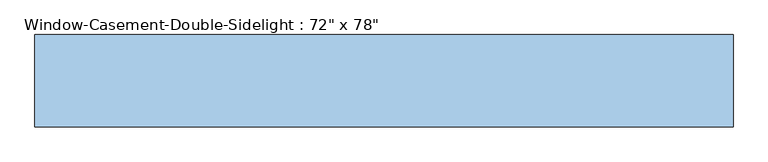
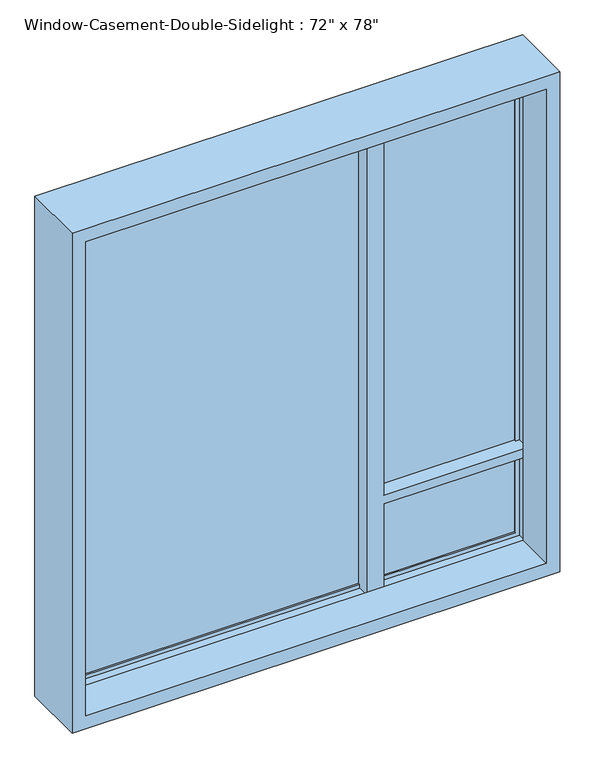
"""IFC4 building model written with IfcOpenShell, lengths in millimetres: window geometry."""

from ifc_helpers import new_model, si_unit, frame, origin, place, context, project, spatial, polyline, outline, extrude, faceted_brep, source, transform, mapped, element, save


def window_0ea17b29(model_context):
    return source(origin(), model_context, "Body", "SolidModel", [
        faceted_brep([(-863.6, 79.375, 2844.8), (-863.6, 120.65, 2844.8), (863.6, 120.65, 2844.8), (863.6, 79.375, 2844.8), (340.3203125, 79.375, 2844.8), (330.2, 79.375, 2844.8), (330.2, 117.475, 2844.8), (279.4, 117.475, 2844.8), (279.4, 79.375, 2844.8), (-878.8796875, 28.575, 2860.0796875), (-878.8796875, 79.375, 2860.0796875), (878.8796875, 79.375, 2860.0796875), (878.8796875, 28.575, 2860.0796875), (-863.6, -120.65, 2844.8), (-863.6, 28.575, 2844.8), (279.4, 28.575, 2844.8), (340.3203125, 28.575, 2844.8), (863.6, 28.575, 2844.8), (863.6, -120.65, 2844.8), (-914.4, 120.65, 2895.6), (-914.4, -120.65, 2895.6), (914.4, -120.65, 2895.6), (914.4, 120.65, 2895.6), (863.6, 120.65, 965.2), (863.6, 79.375, 965.2), (863.6, 79.375, 1292.8798438), (863.6, 117.475, 1292.8798438), (863.6, 117.475, 1328.4001563), (863.6, 79.375, 1328.4001563), (878.8796875, 79.375, 1328.4001563), (878.8796875, 28.575, 1328.4001563), (878.8796875, 79.375, 949.9203125), (878.8796875, 28.575, 949.9203125), (878.8796875, 28.575, 1292.8798438), (878.8796875, 79.375, 1292.8798438), (863.6, 28.575, 1328.4001563), (863.6, 28.575, 1292.8798438), (863.6, 28.575, 965.2), (863.6, -120.65, 965.2), (914.4, -120.65, 914.4), (914.4, 120.65, 914.4), (-863.6, 120.65, 965.2), (-863.6, 79.375, 965.2), (279.4, 79.375, 965.2), (279.4, 117.475, 965.2), (330.2, 117.475, 965.2), (330.2, 79.375, 965.2), (340.3203125, 79.375, 965.2), (340.3203125, 79.375, 949.9203125), (340.3203125, 28.575, 949.9203125), (-878.8796875, 79.375, 949.9203125), (-878.8796875, 28.575, 949.9203125), (279.4, 28.575, 949.9203125), (279.4, 79.375, 949.9203125), (340.3203125, 28.575, 965.2), (279.4, 28.575, 965.2), (-863.6, 28.575, 965.2), (-863.6, -120.65, 965.2), (-914.4, -120.65, 914.4), (-914.4, 120.65, 914.4), (330.2, 79.375, 2844.8), (330.2, 117.475, 1328.4001563), (330.2, 117.475, 1292.8798438), (340.3203125, 79.375, 1292.8798438), (340.3203125, 28.575, 1292.8798438), (340.3203125, 28.575, 1328.4001563), (340.3203125, 79.375, 1328.4001563), (330.2, 79.375, 1328.4001563), (330.2, 79.375, 1292.8798438)], [[[0, 1, 2, 3, 4, 5, 6, 7, 8]], [[9, 10, 11, 12]], [[13, 14, 15, 16, 17, 18]], [[19, 20, 21, 22]], [[3, 2, 23, 24, 25, 26, 27, 28]], [[12, 11, 29, 30]], [[31, 32, 33, 34]], [[18, 17, 35, 36, 37, 38]], [[22, 21, 39, 40]], [[24, 23, 41, 42, 43, 44, 45, 46, 47]], [[32, 31, 48, 49]], [[50, 51, 52, 53]], [[38, 37, 54, 55, 56, 57]], [[40, 39, 58, 59]], [[1, 0, 42, 41]], [[48, 31, 34, 25, 24, 47]], [[11, 10, 50, 53, 43, 42, 0, 8, 60, 4, 3, 28, 29]], [[10, 9, 51, 50]], [[9, 12, 30, 35, 17, 16, 15, 14, 56, 55, 52, 51]], [[54, 37, 36, 33, 32, 49]], [[14, 13, 57, 56]], [[21, 20, 58, 39], [13, 18, 38, 57]], [[20, 19, 59, 58]], [[19, 22, 40, 59], [2, 1, 41, 23]], [[44, 7, 6, 61, 27, 26, 62, 45]], [[55, 15, 8, 7, 44, 43, 53, 52]], [[49, 48, 47, 63, 64, 54]], [[4, 16, 65, 66]], [[6, 5, 67, 61]], [[46, 45, 62, 68]], [[36, 64, 63, 68, 62, 26, 25, 34, 33]], [[65, 35, 30, 29, 28, 27, 61, 67, 66]], [[16, 4, 60, 8, 15]], [[15, 55, 54, 64, 36, 35, 65, 16]], [[5, 4, 66, 67]], [[47, 46, 68, 63]]]),
        extrude(outline(polyline([(889.0, 92.075), (889.0, 85.725), (330.2, 85.725), (330.2, 92.075), (889.0, 92.075)])), frame((0.0, 0.0, 1328.4001563), z_axis=(0.0, 0.0, 1.0), x_axis=(1.0, 0.0, 0.0)), (0.0, 0.0, 1.0), 1541.7998438),
        extrude(outline(polyline([(889.0, 104.775), (889.0, 98.425), (330.2, 98.425), (330.2, 104.775), (889.0, 104.775)])), frame((0.0, 0.0, 1328.4001563), z_axis=(0.0, 0.0, 1.0), x_axis=(1.0, 0.0, 0.0)), (0.0, 0.0, 1.0), 1541.7998438),
        extrude(outline(polyline([(279.4, 104.775), (279.4, 98.425), (-863.6, 98.425), (-863.6, 104.775), (279.4, 104.775)])), frame((0.0, 0.0, 949.9203125), z_axis=(0.0, 0.0, 1.0), x_axis=(1.0, 0.0, 0.0)), (0.0, 0.0, 1.0), 1920.2796875),
        extrude(outline(polyline([(279.4, 92.075), (279.4, 85.725), (-863.6, 85.725), (-863.6, 92.075), (279.4, 92.075)])), frame((0.0, 0.0, 949.9203125), z_axis=(0.0, 0.0, 1.0), x_axis=(1.0, 0.0, 0.0)), (0.0, 0.0, 1.0), 1920.2796875),
        extrude(outline(polyline([(889.0, 104.775), (330.2, 104.775), (330.2, 117.475), (889.0, 117.475), (889.0, 104.775)])), frame((0.0, 0.0, 949.9203125), z_axis=(0.0, 0.0, 1.0), x_axis=(1.0, 0.0, 0.0)), (0.0, 0.0, 1.0), 342.9595312),
        extrude(outline(polyline([(889.0, 92.075), (889.0, 85.725), (330.2, 85.725), (330.2, 92.075), (889.0, 92.075)])), frame((0.0, 0.0, 949.9203125), z_axis=(0.0, 0.0, 1.0), x_axis=(1.0, 0.0, 0.0)), (0.0, 0.0, 1.0), 342.9595312),
    ])


if __name__ == "__main__":
    model = new_model("IFC4")
    model_context = context("Model", 3, world=origin())
    ifc_project = project(units=[si_unit("LENGTHUNIT", "METRE", prefix="MILLI")], contexts=[model_context])
    site = spatial("IfcSite", under=ifc_project)
    building = spatial("IfcBuilding", under=site)
    placement = place(None, origin())
    window_shape = window_0ea17b29(model_context)
    element("IfcWindow", 1, ObjectType="Window-Casement-Double-Sidelight : 72\" x 78\"", at=placement, inside=building, context=model_context, shape_type="MappedRepresentation", body=[
        mapped(window_shape, transform((0.0, 0.0, 0.0), x_axis=(1.0, 0.0, 0.0), y_axis=(0.0, 1.0, 0.0), z_axis=(0.0, 0.0, 1.0))),
    ])
    save(model, "model.ifc")
